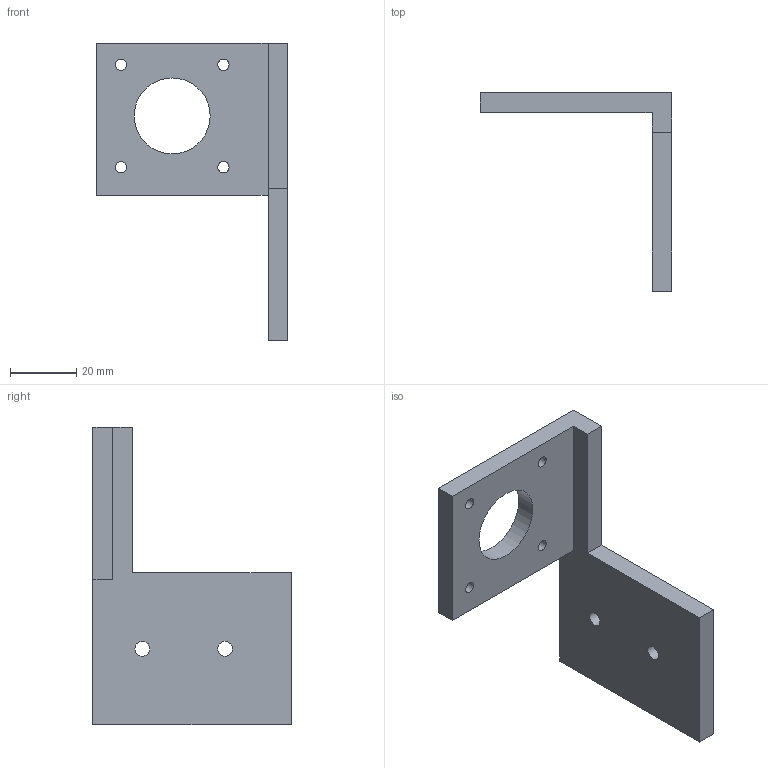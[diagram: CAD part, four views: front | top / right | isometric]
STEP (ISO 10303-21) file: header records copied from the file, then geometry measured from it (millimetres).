
FILE_DESCRIPTION(('Open CASCADE Model'),'2;1');
FILE_NAME('Open CASCADE Shape Model','2026-10-06T19:56:10',('Author'),( 'Open CASCADE'),'Open CASCADE STEP processor 7.9','Open CASCADE 7.9' ,'Unknown');
FILE_SCHEMA(('AUTOMOTIVE_DESIGN { 1 0 10303 214 1 1 1 1 }'));
Length unit declared in the file: millimetre
Products named in the file (1): Open CASCADE STEP translator 7.9 43
Bounding box: 58 x 60 x 90 mm (x, y, z)
Volume: 31178.4 mm3; surface area: 13676.3 mm2
Topology: 1 solids, 1 shells, 18 faces, 48 edges, 32 vertices
Faces by surface type: plane 11, cylinder 7
Full cylindrical faces by diameter (mm): 3.4 x4, 4.5 x2, 23 x1
Entity records: 1234 total; most frequent: CARTESIAN_POINT 225, DIRECTION 186, LINE 110, VECTOR 110, ORIENTED_EDGE 96, PCURVE 96, DEFINITIONAL_REPRESENTATION 96, EDGE_CURVE 48
